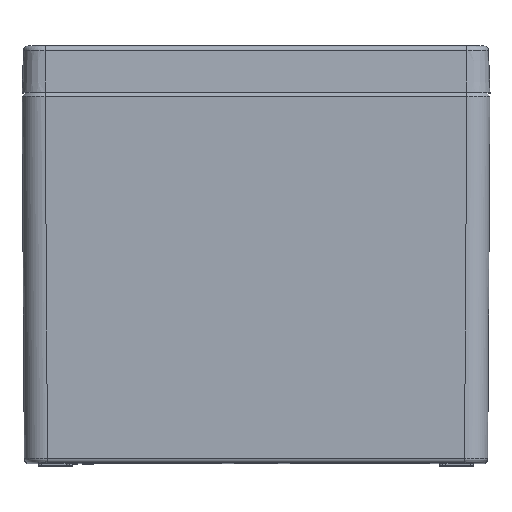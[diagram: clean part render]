
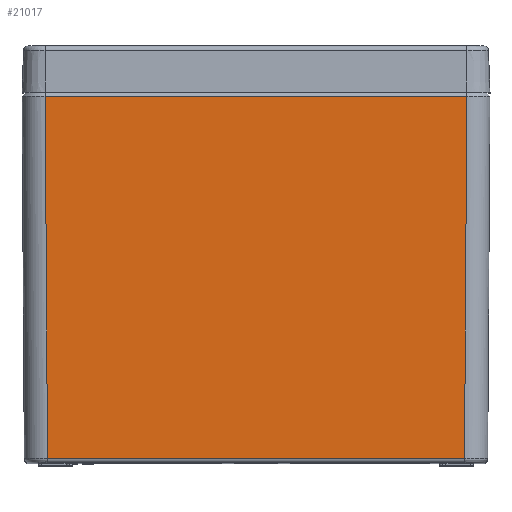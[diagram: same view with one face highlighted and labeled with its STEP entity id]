
A CAD part, top view. The second image highlights one B-rep face of the part: STEP entity #21017.
In plain terms, the highlighted planar face has unit normal (0, -0.006, 1).
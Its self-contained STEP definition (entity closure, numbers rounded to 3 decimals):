
#491 = PLANE ( 'NONE',  #15586 ) ;
#2653 = ORIENTED_EDGE ( 'NONE', *, *, #22339, .T. ) ;
#3012 = VECTOR ( 'NONE', #16940, 1000. ) ;
#3870 = ORIENTED_EDGE ( 'NONE', *, *, #15019, .T. ) ;
#4525 = EDGE_LOOP ( 'NONE', ( #9441, #3870, #13840, #2653 ) ) ;
#7305 = FACE_OUTER_BOUND ( 'NONE', #4525, .T. ) ;
#7411 = VERTEX_POINT ( 'NONE', #22849 ) ;
#7521 = DIRECTION ( 'NONE',  ( -1., 0., 0. ) ) ;
#8437 = VECTOR ( 'NONE', #33439, 1000. ) ;
#9441 = ORIENTED_EDGE ( 'NONE', *, *, #33512, .T. ) ;
#11253 = CARTESIAN_POINT ( 'NONE',  ( -90.007, -158.013, 115.007 ) ) ;
#13505 = LINE ( 'NONE', #17227, #8437 ) ;
#13840 = ORIENTED_EDGE ( 'NONE', *, *, #21690, .T. ) ;
#15019 = EDGE_CURVE ( 'NONE', #35923, #7411, #25248, .T. ) ;
#15586 = AXIS2_PLACEMENT_3D ( 'NONE', #27225, #40593, #7521 ) ;
#16940 = DIRECTION ( 'NONE',  ( 0.006, -1., -0.006 ) ) ;
#17227 = CARTESIAN_POINT ( 'NONE',  ( 90.993, -1.206, 115.992 ) ) ;
#20834 = CARTESIAN_POINT ( 'NONE',  ( -101., -1.8, 115.989 ) ) ;
#21017 = ADVANCED_FACE ( 'NONE', ( #7305 ), #491, .T. ) ;
#21690 = EDGE_CURVE ( 'NONE', #7411, #35466, #13505, .T. ) ;
#22330 = CARTESIAN_POINT ( 'NONE',  ( -90.989, -1.8, 115.989 ) ) ;
#22339 = EDGE_CURVE ( 'NONE', #35466, #35094, #23901, .T. ) ;
#22849 = CARTESIAN_POINT ( 'NONE',  ( 90.007, -158.013, 115.007 ) ) ;
#23508 = LINE ( 'NONE', #36888, #3012 ) ;
#23901 = LINE ( 'NONE', #20834, #27752 ) ;
#24341 = DIRECTION ( 'NONE',  ( -1., 0., 0. ) ) ;
#25102 = CARTESIAN_POINT ( 'NONE',  ( 90.989, -1.8, 115.989 ) ) ;
#25248 = LINE ( 'NONE', #38198, #40622 ) ;
#27225 = CARTESIAN_POINT ( 'NONE',  ( -101., 0., 116. ) ) ;
#27752 = VECTOR ( 'NONE', #24341, 1000. ) ;
#31408 = DIRECTION ( 'NONE',  ( 1., 0., 0. ) ) ;
#33439 = DIRECTION ( 'NONE',  ( 0.006, 1., 0.006 ) ) ;
#33512 = EDGE_CURVE ( 'NONE', #35094, #35923, #23508, .T. ) ;
#35094 = VERTEX_POINT ( 'NONE', #22330 ) ;
#35466 = VERTEX_POINT ( 'NONE', #25102 ) ;
#35923 = VERTEX_POINT ( 'NONE', #11253 ) ;
#36888 = CARTESIAN_POINT ( 'NONE',  ( -91.001, 0.063, 116. ) ) ;
#38198 = CARTESIAN_POINT ( 'NONE',  ( 89.995, -158.013, 115.007 ) ) ;
#40593 = DIRECTION ( 'NONE',  ( 0., -0.006, 1. ) ) ;
#40622 = VECTOR ( 'NONE', #31408, 1000. ) ;
